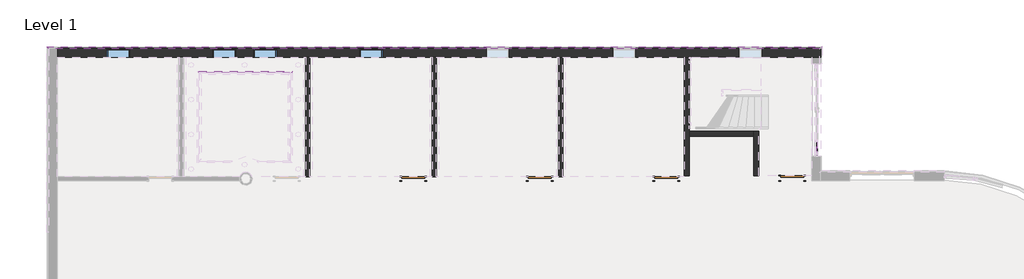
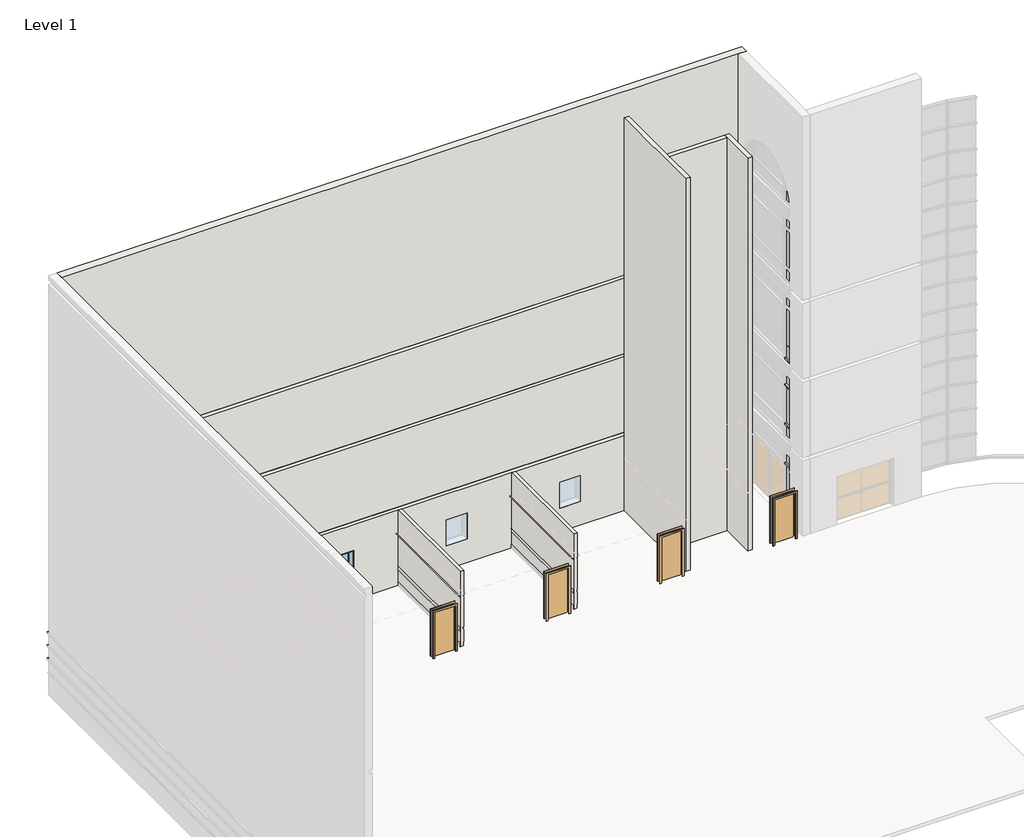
# One storey, part 10 of 20: 13 plates, 8 walls, 5 members, 4 doors, 4 windows, 3 proxies.
"""IFC4 building model written with IfcOpenShell, lengths in millimetres."""

from ifc_helpers import new_model, si_unit, frame, origin, origin_with_axes, place, context, project, spatial, polyline, outline, extrude, faceted_brep, transform, mapped, element, save
from components import door_f9494b7c, door_d6d25fb4, member_aaa03826, system_panel_glazed_0abf4587, system_panel_glazed_c8e71bd0, system_panel_glazed_bf223ca8, system_panel_glazed_db2ca77c, system_panel_glazed_a7a8c7fc, system_panel_glazed_db8a70c9, system_panel_glazed_0a7c89d8, window_15c49d37, window_0e2fc6ce

model = new_model("IFC4")

# Units and contexts
model_context = context("Model", 3, world=origin())
ifc_project = project(units=[si_unit("LENGTHUNIT", "METRE", prefix="MILLI")], contexts=[model_context])

# Site, building, storey
site = spatial("IfcSite", under=ifc_project)
building = spatial("IfcBuilding", under=site)
storey = spatial("IfcBuildingStorey", under=building, Name="Level 1", Elevation=0.0)

# Proxies
placement = place(None, origin())
element("IfcBuildingElementProxy", 1, Name="Reveals", at=placement, inside=storey, context=model_context, shape_type="SweptSolid", body=[
    extrude(outline(polyline([(10753.1735554, 9660.7898319), (10753.1735554, 9752.8648319), (13127.8089721, 9752.8648319), (13035.7339721, 9660.7898319), (10753.1735554, 9660.7898319)])), frame((0.0, 0.0, 1625.6), z_axis=(0.0, 0.0, 1.0), x_axis=(1.0, 0.0, 0.0)), (0.0, 0.0, 1.0), 67.7333333),
    extrude(outline(polyline([(5766.5714721, 9660.7898319), (5766.5714721, 9752.8648319), (9838.7735554, 9752.8648319), (9838.7735554, 9660.7898319), (5766.5714721, 9660.7898319)])), frame((0.0, 0.0, 1625.6), z_axis=(0.0, 0.0, 1.0), x_axis=(1.0, 0.0, 0.0)), (0.0, 0.0, 1.0), 67.7333333),
    extrude(outline(polyline([(774.4131388, 9660.7898319), (774.4131388, 9752.8648319), (4852.1714721, 9752.8648319), (4852.1714721, 9660.7898319), (774.4131388, 9660.7898319)])), frame((0.0, 0.0, 1625.6), z_axis=(0.0, 0.0, 1.0), x_axis=(1.0, 0.0, 0.0)), (0.0, 0.0, 1.0), 67.7333333),
    extrude(outline(polyline([(-4217.7451946, 9660.7898319), (-4217.7451946, 9752.8648319), (-139.9868612, 9752.8648319), (-139.9868612, 9660.7898319), (-4217.7451946, 9660.7898319)])), frame((0.0, 0.0, 1625.6), z_axis=(0.0, 0.0, 1.0), x_axis=(1.0, 0.0, 0.0)), (0.0, 0.0, 1.0), 67.7333333),
    extrude(outline(polyline([(-8403.8063057, 9660.7898319), (-8403.8063057, 9752.8648319), (-5132.1451946, 9752.8648319), (-5132.1451946, 9660.7898319), (-8403.8063057, 9660.7898319)])), frame((0.0, 0.0, 1625.6), z_axis=(0.0, 0.0, 1.0), x_axis=(1.0, 0.0, 0.0)), (0.0, 0.0, 1.0), 67.7333333),
    extrude(outline(polyline([(-10016.0007501, 9660.7898319), (-10016.0007501, 9752.8648319), (-9318.2063057, 9752.8648319), (-9318.2063057, 9660.7898319), (-10016.0007501, 9660.7898319)])), frame((0.0, 0.0, 1625.6), z_axis=(0.0, 0.0, 1.0), x_axis=(1.0, 0.0, 0.0)), (0.0, 0.0, 1.0), 67.7333333),
    extrude(outline(polyline([(-14196.5056112, 9660.7898319), (-14196.5056112, 9752.8648319), (-10930.4007501, 9752.8648319), (-10930.4007501, 9660.7898319), (-14196.5056112, 9660.7898319)])), frame((0.0, 0.0, 1625.6), z_axis=(0.0, 0.0, 1.0), x_axis=(1.0, 0.0, 0.0)), (0.0, 0.0, 1.0), 67.7333333),
    extrude(outline(polyline([(-17393.4660279, 9660.7898319), (-17485.5410279, 9752.8648319), (-15110.9056112, 9752.8648319), (-15110.9056112, 9660.7898319), (-17393.4660279, 9660.7898319)])), frame((0.0, 0.0, 1625.6), z_axis=(0.0, 0.0, 1.0), x_axis=(1.0, 0.0, 0.0)), (0.0, 0.0, 1.0), 67.7333333),
])
element("IfcBuildingElementProxy", 2, Name="Reveals", at=placement, inside=storey, context=model_context, shape_type="SweptSolid", body=[
    extrude(outline(polyline([(10753.1735554, 9660.7898319), (10753.1735554, 9752.8648319), (13127.8089721, 9752.8648319), (13035.7339721, 9660.7898319), (10753.1735554, 9660.7898319)])), frame((0.0, 0.0, 2235.2), z_axis=(0.0, 0.0, 1.0), x_axis=(1.0, 0.0, 0.0)), (0.0, 0.0, 1.0), 67.7333333),
    extrude(outline(polyline([(-14196.5056112, 9660.7898319), (-14196.5056112, 9752.8648319), (-10930.4007501, 9752.8648319), (-10930.4007501, 9660.7898319), (-14196.5056112, 9660.7898319)])), frame((0.0, 0.0, 2235.2), z_axis=(0.0, 0.0, 1.0), x_axis=(1.0, 0.0, 0.0)), (0.0, 0.0, 1.0), 67.7333333),
    extrude(outline(polyline([(-10016.0007501, 9660.7898319), (-10016.0007501, 9752.8648319), (-9318.2063057, 9752.8648319), (-9318.2063057, 9660.7898319), (-10016.0007501, 9660.7898319)])), frame((0.0, 0.0, 2235.2), z_axis=(0.0, 0.0, 1.0), x_axis=(1.0, 0.0, 0.0)), (0.0, 0.0, 1.0), 67.7333333),
    extrude(outline(polyline([(-8403.8063057, 9660.7898319), (-8403.8063057, 9752.8648319), (-5132.1451946, 9752.8648319), (-5132.1451946, 9660.7898319), (-8403.8063057, 9660.7898319)])), frame((0.0, 0.0, 2235.2), z_axis=(0.0, 0.0, 1.0), x_axis=(1.0, 0.0, 0.0)), (0.0, 0.0, 1.0), 67.7333333),
    extrude(outline(polyline([(-4217.7451946, 9660.7898319), (-4217.7451946, 9752.8648319), (-139.9868612, 9752.8648319), (-139.9868612, 9660.7898319), (-4217.7451946, 9660.7898319)])), frame((0.0, 0.0, 2235.2), z_axis=(0.0, 0.0, 1.0), x_axis=(1.0, 0.0, 0.0)), (0.0, 0.0, 1.0), 67.7333333),
    extrude(outline(polyline([(774.4131388, 9660.7898319), (774.4131388, 9752.8648319), (4852.1714721, 9752.8648319), (4852.1714721, 9660.7898319), (774.4131388, 9660.7898319)])), frame((0.0, 0.0, 2235.2), z_axis=(0.0, 0.0, 1.0), x_axis=(1.0, 0.0, 0.0)), (0.0, 0.0, 1.0), 67.7333333),
    extrude(outline(polyline([(5766.5714721, 9660.7898319), (5766.5714721, 9752.8648319), (9838.7735554, 9752.8648319), (9838.7735554, 9660.7898319), (5766.5714721, 9660.7898319)])), frame((0.0, 0.0, 2235.2), z_axis=(0.0, 0.0, 1.0), x_axis=(1.0, 0.0, 0.0)), (0.0, 0.0, 1.0), 67.7333333),
    extrude(outline(polyline([(-17393.4660279, 9660.7898319), (-17485.5410279, 9752.8648319), (-15110.9056112, 9752.8648319), (-15110.9056112, 9660.7898319), (-17393.4660279, 9660.7898319)])), frame((0.0, 0.0, 2235.2), z_axis=(0.0, 0.0, 1.0), x_axis=(1.0, 0.0, 0.0)), (0.0, 0.0, 1.0), 67.7333333),
])
element("IfcBuildingElementProxy", 3, Name="Reveals", at=placement, inside=storey, context=model_context, shape_type="SweptSolid", body=[
    extrude(outline(polyline([(-17393.4660279, 9660.7898319), (-17485.5410279, 9752.8648319), (13127.8089721, 9752.8648319), (13035.7339721, 9660.7898319), (-17393.4660279, 9660.7898319)])), frame((0.0, 0.0, 2844.8), z_axis=(0.0, 0.0, 1.0), x_axis=(1.0, 0.0, 0.0)), (0.0, 0.0, 1.0), 67.7333333),
])

# Doors
door_shape = door_f9494b7c(model_context)
element("IfcDoor", 4, ObjectType="Single-Flush : 36\" x 84\"", at=placement, inside=storey, context=model_context, shape_type="MappedRepresentation", body=[
    mapped(door_shape, transform((-3018.6535279, 4534.7523319, 0.0), x_axis=(1.0, 0.0, 0.0), y_axis=(0.0, 1.0, 0.0), z_axis=(0.0, 0.0, 1.0))),
])
element("IfcDoor", 5, ObjectType="Single-Flush : 36\" x 84\"", at=placement, inside=storey, context=model_context, shape_type="MappedRepresentation", body=[
    mapped(door_shape, transform((1973.5048054, 4534.7523319, 0.0), x_axis=(1.0, 0.0, 0.0), y_axis=(0.0, 1.0, 0.0), z_axis=(0.0, 0.0, 1.0))),
])
element("IfcDoor", 6, ObjectType="Single-Flush : 36\" x 84\"", at=placement, inside=storey, context=model_context, shape_type="MappedRepresentation", body=[
    mapped(door_shape, transform((6965.6631388, 4534.7523319, 0.0), x_axis=(1.0, 0.0, 0.0), y_axis=(0.0, 1.0, 0.0), z_axis=(0.0, 0.0, 1.0))),
])
door_2_shape = door_d6d25fb4(model_context)
element("IfcDoor", 7, ObjectType="Single-Flush : 36\" x 84\"", at=placement, inside=storey, context=model_context, shape_type="MappedRepresentation", body=[
    mapped(door_2_shape, transform((11946.7089721, 4553.8023319, 0.0), x_axis=(1.0, 0.0, 0.0), y_axis=(0.0, 1.0, 0.0), z_axis=(0.0, 0.0, 1.0))),
])

# Members
member_shape = member_aaa03826(model_context)
element("IfcMember", 8, ObjectType="Rectangular Mullion : 2.5\" x 5\" rectangular", at=placement, inside=storey, context=model_context, shape_type="MappedRepresentation", body=[
    mapped(member_shape, transform((12884.9214721, 5996.8398319, 2438.4), x_axis=(0.0, 0.0, 1.0), y_axis=(1.0, 0.0, 0.0), z_axis=(0.0, 1.0, 0.0))),
])
element("IfcMember", 9, ObjectType="Rectangular Mullion : 2.5\" x 5\" rectangular", at=placement, inside=storey, context=model_context, shape_type="MappedRepresentation", body=[
    mapped(member_shape, transform((12884.9214721, 5996.8398319, 4267.2), x_axis=(0.0, 0.0, 1.0), y_axis=(1.0, 0.0, 0.0), z_axis=(0.0, 1.0, 0.0))),
])
element("IfcMember", 10, ObjectType="Rectangular Mullion : 2.5\" x 5\" rectangular", at=placement, inside=storey, context=model_context, shape_type="MappedRepresentation", body=[
    mapped(member_shape, transform((12884.9214721, 5996.8398319, 6096.0), x_axis=(0.0, 0.0, 1.0), y_axis=(1.0, 0.0, 0.0), z_axis=(0.0, 1.0, 0.0))),
])
element("IfcMember", 11, ObjectType="Rectangular Mullion : 2.5\" x 5\" rectangular", at=placement, inside=storey, context=model_context, shape_type="MappedRepresentation", body=[
    mapped(member_shape, transform((12884.9214721, 5996.8398319, 7315.2), x_axis=(0.0, 0.0, 1.0), y_axis=(1.0, 0.0, 0.0), z_axis=(0.0, 1.0, 0.0))),
])
element("IfcMember", 12, ObjectType="Rectangular Mullion : 2.5\" x 5\" rectangular", at=placement, inside=storey, context=model_context, shape_type="MappedRepresentation", body=[
    mapped(member_shape, transform((12884.9214721, 5996.8398319, 6705.6), x_axis=(0.0, 0.0, 1.0), y_axis=(1.0, 0.0, 0.0), z_axis=(0.0, 1.0, 0.0))),
])

# Plates
system_panel_glazed_shape = system_panel_glazed_0abf4587(model_context)
element("IfcPlate", 13, ObjectType="System Panel : Glazed", at=placement, inside=storey, context=model_context, shape_type="MappedRepresentation", body=[
    mapped(system_panel_glazed_shape, transform((12884.9214721, 5739.6648319, 63.5), x_axis=(0.0, 1.0, 0.0), y_axis=(-1.0, 0.0, 0.0), z_axis=(0.0, 0.0, 1.0))),
])
system_panel_glazed_2_shape = system_panel_glazed_c8e71bd0(model_context)
element("IfcPlate", 14, ObjectType="System Panel : Glazed", at=placement, inside=storey, context=model_context, shape_type="MappedRepresentation", body=[
    mapped(system_panel_glazed_2_shape, transform((12884.9214721, 5739.6648319, 3689.35), x_axis=(0.0, 1.0, 0.0), y_axis=(-1.0, 0.0, 0.0), z_axis=(0.0, 0.0, 1.0))),
])
element("IfcPlate", 15, ObjectType="System Panel : Glazed", at=placement, inside=storey, context=model_context, shape_type="MappedRepresentation", body=[
    mapped(system_panel_glazed_2_shape, transform((12884.9214721, 5739.6648319, 11004.55), x_axis=(0.0, 1.0, 0.0), y_axis=(-1.0, 0.0, 0.0), z_axis=(0.0, 0.0, 1.0))),
])
element("IfcPlate", 16, ObjectType="System Panel : Glazed", at=placement, inside=storey, context=model_context, shape_type="MappedRepresentation", body=[
    mapped(system_panel_glazed_2_shape, transform((12884.9214721, 5739.6648319, 2470.15), x_axis=(0.0, 1.0, 0.0), y_axis=(-1.0, 0.0, 0.0), z_axis=(0.0, 0.0, 1.0))),
])
element("IfcPlate", 17, ObjectType="System Panel : Glazed", at=placement, inside=storey, context=model_context, shape_type="MappedRepresentation", body=[
    mapped(system_panel_glazed_2_shape, transform((12884.9214721, 5739.6648319, 6127.75), x_axis=(0.0, 1.0, 0.0), y_axis=(-1.0, 0.0, 0.0), z_axis=(0.0, 0.0, 1.0))),
])
element("IfcPlate", 18, ObjectType="System Panel : Glazed", at=placement, inside=storey, context=model_context, shape_type="MappedRepresentation", body=[
    mapped(system_panel_glazed_2_shape, transform((12884.9214721, 5739.6648319, 9785.35), x_axis=(0.0, 1.0, 0.0), y_axis=(-1.0, 0.0, 0.0), z_axis=(0.0, 0.0, 1.0))),
])
element("IfcPlate", 19, ObjectType="System Panel : Glazed", at=placement, inside=storey, context=model_context, shape_type="MappedRepresentation", body=[
    mapped(system_panel_glazed_2_shape, transform((12884.9214721, 5739.6648319, 13442.95), x_axis=(0.0, 1.0, 0.0), y_axis=(-1.0, 0.0, 0.0), z_axis=(0.0, 0.0, 1.0))),
])
system_panel_glazed_3_shape = system_panel_glazed_bf223ca8(model_context)
element("IfcPlate", 20, ObjectType="System Panel : Glazed", at=placement, inside=storey, context=model_context, shape_type="MappedRepresentation", body=[
    mapped(system_panel_glazed_3_shape, transform((12884.9214721, 5739.6648319, 7346.95), x_axis=(0.0, 1.0, 0.0), y_axis=(-1.0, 0.0, 0.0), z_axis=(0.0, 0.0, 1.0))),
])
system_panel_glazed_4_shape = system_panel_glazed_db2ca77c(model_context)
element("IfcPlate", 21, ObjectType="System Panel : Glazed", at=placement, inside=storey, context=model_context, shape_type="MappedRepresentation", body=[
    mapped(system_panel_glazed_4_shape, transform((12884.9214721, 5739.8076043, 14662.15), x_axis=(0.0, 1.0, 0.0), y_axis=(-1.0, 0.0, 0.0), z_axis=(0.0, 0.0, 1.0))),
])
system_panel_glazed_5_shape = system_panel_glazed_a7a8c7fc(model_context)
element("IfcPlate", 22, ObjectType="System Panel : Glazed", at=placement, inside=storey, context=model_context, shape_type="MappedRepresentation", body=[
    mapped(system_panel_glazed_5_shape, transform((12884.9214721, 5739.6648319, 4298.95), x_axis=(0.0, 1.0, 0.0), y_axis=(-1.0, 0.0, 0.0), z_axis=(0.0, 0.0, 1.0))),
])
element("IfcPlate", 23, ObjectType="System Panel : Glazed", at=placement, inside=storey, context=model_context, shape_type="MappedRepresentation", body=[
    mapped(system_panel_glazed_5_shape, transform((12884.9214721, 5739.6648319, 11614.15), x_axis=(0.0, 1.0, 0.0), y_axis=(-1.0, 0.0, 0.0), z_axis=(0.0, 0.0, 1.0))),
])
system_panel_glazed_6_shape = system_panel_glazed_db8a70c9(model_context)
element("IfcPlate", 24, ObjectType="System Panel : Glazed", at=placement, inside=storey, context=model_context, shape_type="MappedRepresentation", body=[
    mapped(system_panel_glazed_6_shape, transform((12884.9214721, 5739.6648319, 7924.8), x_axis=(0.0, 1.0, 0.0), y_axis=(-1.0, 0.0, 0.0), z_axis=(0.0, 0.0, 1.0))),
])
system_panel_glazed_7_shape = system_panel_glazed_0a7c89d8(model_context)
element("IfcPlate", 25, ObjectType="System Panel : Glazed", at=placement, inside=storey, context=model_context, shape_type="MappedRepresentation", body=[
    mapped(system_panel_glazed_7_shape, transform((12884.9214721, 5799.9775733, 15271.75), x_axis=(0.0, 1.0, 0.0), y_axis=(-1.0, 0.0, 0.0), z_axis=(0.0, 0.0, 1.0))),
])

# Walls
element("IfcWall", 26, ObjectType="Exterior - Brick and CMU on MTL. Stud", at=placement, inside=storey, context=model_context, shape_type="Brep", body=[
    faceted_brep([(-17066.4410279, 9333.7648319, 0.0), (-12240.9701946, 9333.7648319, 0.0), (-12085.3951946, 9333.7648319, 0.0), (-7248.8118612, 9333.7648319, 0.0), (-7093.2368612, 9333.7648319, 0.0), (-2256.6535279, 9333.7648319, 0.0), (-2101.0785279, 9333.7648319, 0.0), (2735.5048054, 9333.7648319, 0.0), (2891.0798054, 9333.7648319, 0.0), (7689.5631388, 9333.7648319, 0.0), (7883.2381388, 9333.7648319, 0.0), (12708.7089721, 9333.7648319, 0.0), (13061.1339721, 9333.7648319, 0.0), (13061.1339721, 9333.7648319, 1016.0), (12969.0589721, 9333.7648319, 1016.0), (12969.0589721, 9333.7648319, 1085.85), (13061.1339721, 9333.7648319, 1085.85), (13061.1339721, 9333.7648319, 1625.6), (13035.7339721, 9333.7648319, 1625.6), (13035.7339721, 9333.7648319, 1693.3333333), (13061.1339721, 9333.7648319, 1693.3333333), (13061.1339721, 9333.7648319, 2235.2), (13035.7339721, 9333.7648319, 2235.2), (13035.7339721, 9333.7648319, 2302.9333333), (13061.1339721, 9333.7648319, 2302.9333333), (13061.1339721, 9333.7648319, 2844.8), (13035.7339721, 9333.7648319, 2844.8), (13035.7339721, 9333.7648319, 2912.5333333), (13061.1339721, 9333.7648319, 2912.5333333), (13061.1339721, 9333.7648319, 19100.8), (12969.0589721, 9333.7648319, 19100.8), (12969.0589721, 9333.7648319, 19304.0), (13061.1339721, 9333.7648319, 19304.0), (13061.1339721, 9333.7648319, 19507.2), (12708.7089721, 9333.7648319, 19507.2), (-17066.4410279, 9333.7648319, 19507.2), (-17066.4410279, 9333.7648319, 10972.8), (7883.7381388, 9333.7648319, 10972.8), (10718.2353862, 9333.7648319, 10972.8), (12708.7089721, 9333.7648319, 10972.8), (12873.8089721, 9333.7648319, 10972.8), (12873.8089721, 9333.7648319, 10820.4), (12708.7089721, 9333.7648319, 10820.4), (10718.2353862, 9333.7648319, 10820.4), (7883.7381388, 9333.7648319, 10820.4), (-17066.4410279, 9333.7648319, 10820.4), (-17066.4410279, 9333.7648319, 7315.2), (7883.7381388, 9333.7648319, 7315.2), (10718.2353862, 9333.7648319, 7315.2), (12708.7089721, 9333.7648319, 7315.2), (12873.8089721, 9333.7648319, 7315.2), (12873.8089721, 9333.7648319, 7162.8), (12708.7089721, 9333.7648319, 7162.8), (10718.2353862, 9333.7648319, 7162.8), (7883.7381388, 9333.7648319, 7162.8), (-13253.2660279, 9333.7648319, 7162.8), (-13408.8410279, 9333.7648319, 7162.8), (-17066.4410279, 9333.7648319, 7162.8), (-17066.4410279, 9333.7648319, 3657.6), (-13408.8410279, 9333.7648319, 3657.6), (-13253.2660279, 9333.7648319, 3657.6), (7883.7381388, 9333.7648319, 3657.6), (10718.2353862, 9333.7648319, 3657.6), (12708.7089721, 9333.7648319, 3657.6), (12873.8089721, 9333.7648319, 3657.6), (12873.8089721, 9333.7648319, 3505.2), (12708.7089721, 9333.7648319, 3505.2), (10718.2353862, 9333.7648319, 3505.2), (7883.7381388, 9333.7648319, 3505.2), (2891.0798054, 9333.7648319, 3505.2), (2735.5048054, 9333.7648319, 3505.2), (-2101.0785279, 9333.7648319, 3505.2), (-2256.6535279, 9333.7648319, 3505.2), (-7093.2368612, 9333.7648319, 3505.2), (-7248.8118612, 9333.7648319, 3505.2), (-12085.3951946, 9333.7648319, 3505.2), (-12240.9701946, 9333.7648319, 3505.2), (-17066.4410279, 9333.7648319, 3505.2), (-14196.5056112, 9333.7648319, 2311.4), (-14196.5056112, 9333.7648319, 1092.2), (-15110.9056112, 9333.7648319, 1092.2), (-15110.9056112, 9333.7648319, 2311.4), (-10016.0007501, 9333.7648319, 2311.4), (-10016.0007501, 9333.7648319, 1092.2), (-10930.4007501, 9333.7648319, 1092.2), (-10930.4007501, 9333.7648319, 2311.4), (-4217.7451946, 9333.7648319, 2311.4), (-4217.7451946, 9333.7648319, 1092.2), (-5132.1451946, 9333.7648319, 1092.2), (-5132.1451946, 9333.7648319, 2311.4), (774.4131388, 9333.7648319, 2311.4), (774.4131388, 9333.7648319, 1092.2), (-139.9868612, 9333.7648319, 1092.2), (-139.9868612, 9333.7648319, 2311.4), (5766.5714721, 9333.7648319, 2311.4), (5766.5714721, 9333.7648319, 1092.2), (4852.1714721, 9333.7648319, 1092.2), (4852.1714721, 9333.7648319, 2311.4), (10753.1735554, 9333.7648319, 2311.4), (10753.1735554, 9333.7648319, 1092.2), (9838.7735554, 9333.7648319, 1092.2), (9838.7735554, 9333.7648319, 2311.4), (-9318.2063057, 9333.7648319, 1092.2), (-9318.2063057, 9333.7648319, 2311.4), (-8403.8063057, 9333.7648319, 2311.4), (-8403.8063057, 9333.7648319, 1092.2), (-17066.4410279, 9686.1898319, 19507.2), (13061.1339721, 9686.1898319, 19507.2), (13061.1339721, 9686.1898319, 19304.0), (-17066.4410279, 9686.1898319, 19304.0), (13061.1339721, 9686.1898319, 0.0), (-17066.4410279, 9686.1898319, 0.0), (-17066.4410279, 9686.1898319, 1016.0), (13061.1339721, 9686.1898319, 1016.0), (13061.1339721, 9686.1898319, 1693.3333333), (10753.1735554, 9686.1898319, 1693.3333333), (10753.1735554, 9686.1898319, 2235.2), (13061.1339721, 9686.1898319, 2235.2), (10753.1735554, 9686.1898319, 1625.6), (13061.1339721, 9686.1898319, 1625.6), (13061.1339721, 9686.1898319, 1085.85), (-17066.4410279, 9686.1898319, 1085.85), (-17066.4410279, 9686.1898319, 1625.6), (-15110.9056112, 9686.1898319, 1625.6), (-15110.9056112, 9686.1898319, 1092.2), (-14196.5056112, 9686.1898319, 1092.2), (-14196.5056112, 9686.1898319, 1625.6), (-10930.4007501, 9686.1898319, 1625.6), (-10930.4007501, 9686.1898319, 1092.2), (-10016.0007501, 9686.1898319, 1092.2), (-10016.0007501, 9686.1898319, 1625.6), (-9318.2063057, 9686.1898319, 1625.6), (-9318.2063057, 9686.1898319, 1092.2), (-8403.8063057, 9686.1898319, 1092.2), (-8403.8063057, 9686.1898319, 1625.6), (-5132.1451946, 9686.1898319, 1625.6), (-5132.1451946, 9686.1898319, 1092.2), (-4217.7451946, 9686.1898319, 1092.2), (-4217.7451946, 9686.1898319, 1625.6), (-139.9868612, 9686.1898319, 1625.6), (-139.9868612, 9686.1898319, 1092.2), (774.4131388, 9686.1898319, 1092.2), (774.4131388, 9686.1898319, 1625.6), (4852.1714721, 9686.1898319, 1625.6), (4852.1714721, 9686.1898319, 1092.2), (5766.5714721, 9686.1898319, 1092.2), (5766.5714721, 9686.1898319, 1625.6), (9838.7735554, 9686.1898319, 1625.6), (9838.7735554, 9686.1898319, 1092.2), (10753.1735554, 9686.1898319, 1092.2), (13061.1339721, 9686.1898319, 2302.9333333), (10753.1735554, 9686.1898319, 2302.9333333), (10753.1735554, 9686.1898319, 2311.4), (9838.7735554, 9686.1898319, 2311.4), (9838.7735554, 9686.1898319, 2302.9333333), (5766.5714721, 9686.1898319, 2302.9333333), (5766.5714721, 9686.1898319, 2311.4), (4852.1714721, 9686.1898319, 2311.4), (4852.1714721, 9686.1898319, 2302.9333333), (774.4131388, 9686.1898319, 2302.9333333), (774.4131388, 9686.1898319, 2311.4), (-139.9868612, 9686.1898319, 2311.4), (-139.9868612, 9686.1898319, 2302.9333333), (-4217.7451946, 9686.1898319, 2302.9333333), (-4217.7451946, 9686.1898319, 2311.4), (-5132.1451946, 9686.1898319, 2311.4), (-5132.1451946, 9686.1898319, 2302.9333333), (-8403.8063057, 9686.1898319, 2302.9333333), (-8403.8063057, 9686.1898319, 2311.4), (-9318.2063057, 9686.1898319, 2311.4), (-9318.2063057, 9686.1898319, 2302.9333333), (-10016.0007501, 9686.1898319, 2302.9333333), (-10016.0007501, 9686.1898319, 2311.4), (-10930.4007501, 9686.1898319, 2311.4), (-10930.4007501, 9686.1898319, 2302.9333333), (-14196.5056112, 9686.1898319, 2302.9333333), (-14196.5056112, 9686.1898319, 2311.4), (-15110.9056112, 9686.1898319, 2311.4), (-15110.9056112, 9686.1898319, 2302.9333333), (-17066.4410279, 9686.1898319, 2302.9333333), (-17066.4410279, 9686.1898319, 2844.8), (13061.1339721, 9686.1898319, 2844.8), (-15110.9056112, 9686.1898319, 1693.3333333), (-17066.4410279, 9686.1898319, 1693.3333333), (-17066.4410279, 9686.1898319, 2235.2), (-15110.9056112, 9686.1898319, 2235.2), (13061.1339721, 9686.1898319, 2912.5333333), (-17066.4410279, 9686.1898319, 2912.5333333), (-17066.4410279, 9686.1898319, 19100.8), (13061.1339721, 9686.1898319, 19100.8), (9838.7735554, 9686.1898319, 1693.3333333), (5766.5714721, 9686.1898319, 1693.3333333), (5766.5714721, 9686.1898319, 2235.2), (9838.7735554, 9686.1898319, 2235.2), (4852.1714721, 9686.1898319, 1693.3333333), (774.4131388, 9686.1898319, 1693.3333333), (774.4131388, 9686.1898319, 2235.2), (4852.1714721, 9686.1898319, 2235.2), (-139.9868612, 9686.1898319, 1693.3333333), (-4217.7451946, 9686.1898319, 1693.3333333), (-4217.7451946, 9686.1898319, 2235.2), (-139.9868612, 9686.1898319, 2235.2), (-5132.1451946, 9686.1898319, 1693.3333333), (-8403.8063057, 9686.1898319, 1693.3333333), (-8403.8063057, 9686.1898319, 2235.2), (-5132.1451946, 9686.1898319, 2235.2), (-9318.2063057, 9686.1898319, 1693.3333333), (-10016.0007501, 9686.1898319, 1693.3333333), (-10016.0007501, 9686.1898319, 2235.2), (-9318.2063057, 9686.1898319, 2235.2), (-10930.4007501, 9686.1898319, 2235.2), (-10930.4007501, 9686.1898319, 1693.3333333), (-14196.5056112, 9686.1898319, 1693.3333333), (-14196.5056112, 9686.1898319, 2235.2), (-17066.4410279, 9594.1148319, 0.0), (13061.1339721, 9594.1148319, 0.0), (13035.7339721, 9660.7898319, 1693.3333333), (10753.1735554, 9660.7898319, 1693.3333333), (10753.1735554, 9660.7898319, 1625.6), (13035.7339721, 9660.7898319, 1625.6), (13035.7339721, 9660.7898319, 2302.9333333), (10753.1735554, 9660.7898319, 2302.9333333), (10753.1735554, 9660.7898319, 2235.2), (13035.7339721, 9660.7898319, 2235.2), (13035.7339721, 9660.7898319, 2844.8), (-17066.4410279, 9660.7898319, 2844.8), (-17066.4410279, 9660.7898319, 2912.5333333), (13035.7339721, 9660.7898319, 2912.5333333), (12969.0589721, 9594.1148319, 1016.0), (-17066.4410279, 9594.1148319, 1016.0), (-17066.4410279, 9594.1148319, 1085.85), (12969.0589721, 9594.1148319, 1085.85), (12969.0589721, 9594.1148319, 19100.8), (-17066.4410279, 9594.1148319, 19100.8), (-17066.4410279, 9594.1148319, 19304.0), (12969.0589721, 9594.1148319, 19304.0), (-17066.4410279, 9660.7898319, 2302.9333333), (-17066.4410279, 9660.7898319, 2235.2), (-17066.4410279, 9660.7898319, 1693.3333333), (-17066.4410279, 9660.7898319, 1625.6), (-17066.4410279, 9498.8648319, 3505.2), (-17066.4410279, 9498.8648319, 3657.6), (-17066.4410279, 9498.8648319, 7162.8), (-17066.4410279, 9498.8648319, 7315.2), (-17066.4410279, 9498.8648319, 10820.4), (-17066.4410279, 9498.8648319, 10972.8), (-15110.9056112, 9660.7898319, 1693.3333333), (-15110.9056112, 9660.7898319, 1625.6), (-15110.9056112, 9660.7898319, 2302.9333333), (-15110.9056112, 9660.7898319, 2235.2), (-14196.5056112, 9660.7898319, 2302.9333333), (-14196.5056112, 9660.7898319, 2235.2), (-14196.5056112, 9660.7898319, 1693.3333333), (-14196.5056112, 9660.7898319, 1625.6), (5766.5714721, 9660.7898319, 1693.3333333), (9838.7735554, 9660.7898319, 1693.3333333), (9838.7735554, 9660.7898319, 1625.6), (5766.5714721, 9660.7898319, 1625.6), (-10016.0007501, 9660.7898319, 2302.9333333), (-10016.0007501, 9660.7898319, 2235.2), (-10016.0007501, 9660.7898319, 1693.3333333), (-10016.0007501, 9660.7898319, 1625.6), (-10930.4007501, 9660.7898319, 1625.6), (-10930.4007501, 9660.7898319, 1693.3333333), (-10930.4007501, 9660.7898319, 2235.2), (-10930.4007501, 9660.7898319, 2302.9333333), (774.4131388, 9660.7898319, 1693.3333333), (4852.1714721, 9660.7898319, 1693.3333333), (4852.1714721, 9660.7898319, 1625.6), (774.4131388, 9660.7898319, 1625.6), (-4217.7451946, 9660.7898319, 2302.9333333), (-4217.7451946, 9660.7898319, 2235.2), (-4217.7451946, 9660.7898319, 1693.3333333), (-4217.7451946, 9660.7898319, 1625.6), (-5132.1451946, 9660.7898319, 1625.6), (-5132.1451946, 9660.7898319, 1693.3333333), (-5132.1451946, 9660.7898319, 2235.2), (-5132.1451946, 9660.7898319, 2302.9333333), (-139.9868612, 9660.7898319, 1693.3333333), (-139.9868612, 9660.7898319, 1625.6), (774.4131388, 9660.7898319, 2302.9333333), (774.4131388, 9660.7898319, 2235.2), (-139.9868612, 9660.7898319, 2235.2), (-139.9868612, 9660.7898319, 2302.9333333), (-8403.8063057, 9660.7898319, 1693.3333333), (-8403.8063057, 9660.7898319, 1625.6), (5766.5714721, 9660.7898319, 2302.9333333), (5766.5714721, 9660.7898319, 2235.2), (4852.1714721, 9660.7898319, 2235.2), (4852.1714721, 9660.7898319, 2302.9333333), (-9318.2063057, 9660.7898319, 1693.3333333), (-9318.2063057, 9660.7898319, 1625.6), (9838.7735554, 9660.7898319, 2235.2), (9838.7735554, 9660.7898319, 2302.9333333), (-9318.2063057, 9660.7898319, 2302.9333333), (-9318.2063057, 9660.7898319, 2235.2), (-8403.8063057, 9660.7898319, 2302.9333333), (-8403.8063057, 9660.7898319, 2235.2), (12873.8089721, 9498.8648319, 3505.2), (12873.8089721, 9498.8648319, 3657.6), (12873.8089721, 9498.8648319, 7162.8), (12873.8089721, 9498.8648319, 7315.2), (12873.8089721, 9498.8648319, 10820.4), (12873.8089721, 9498.8648319, 10972.8)], [[[0, 1, 2, 3, 4, 5, 6, 7, 8, 9, 10, 11, 12, 13, 14, 15, 16, 17, 18, 19, 20, 21, 22, 23, 24, 25, 26, 27, 28, 29, 30, 31, 32, 33, 34, 35, 36, 37, 38, 39, 40, 41, 42, 43, 44, 45, 46, 47, 48, 49, 50, 51, 52, 53, 54, 55, 56, 57, 58, 59, 60, 61, 62, 63, 64, 65, 66, 67, 68, 69, 70, 71, 72, 73, 74, 75, 76, 77], [78, 79, 80, 81], [82, 83, 84, 85], [86, 87, 88, 89], [90, 91, 92, 93], [94, 95, 96, 97], [98, 99, 100, 101], [102, 103, 104, 105]], [[106, 107, 108, 109]], [[110, 111, 112, 113]], [[114, 115, 116, 117]], [[118, 119, 120, 121, 122, 123, 124, 125, 126, 127, 128, 129, 130, 131, 132, 133, 134, 135, 136, 137, 138, 139, 140, 141, 142, 143, 144, 145, 146, 147, 148, 149]], [[150, 151, 152, 153, 154, 155, 156, 157, 158, 159, 160, 161, 162, 163, 164, 165, 166, 167, 168, 169, 170, 171, 172, 173, 174, 175, 176, 177, 178, 179, 180, 181]], [[182, 183, 184, 185]], [[186, 187, 188, 189]], [[190, 191, 192, 193]], [[194, 195, 196, 197]], [[198, 199, 200, 201]], [[202, 203, 204, 205]], [[206, 207, 208, 209]], [[210, 211, 212, 213]], [[35, 34, 33, 107, 106]], [[12, 11, 10, 9, 8, 7, 6, 5, 4, 3, 2, 1, 0, 214, 215]], [[216, 217, 115, 114, 20, 19]], [[218, 219, 18, 17, 119, 118]], [[217, 216, 219, 218]], [[220, 221, 151, 150, 24, 23]], [[222, 223, 22, 21, 117, 116]], [[221, 220, 223, 222]], [[224, 225, 226, 227]], [[228, 229, 230, 231]], [[232, 233, 234, 235]], [[35, 106, 109, 234, 233, 188, 187, 226, 225, 180, 179, 236, 237, 184, 183, 238, 239, 122, 121, 230, 229, 112, 111, 214, 0, 77, 240, 241, 58, 57, 242, 243, 46, 45, 244, 245, 36]], [[111, 110, 215, 214]], [[183, 182, 246, 238]], [[123, 122, 239, 247]], [[179, 178, 248, 236]], [[185, 184, 237, 249]], [[227, 226, 187, 186, 28, 27]], [[225, 224, 26, 25, 181, 180]], [[231, 230, 121, 120, 16, 15]], [[229, 228, 14, 13, 113, 112]], [[233, 232, 30, 29, 189, 188]], [[235, 234, 109, 108, 32, 31]], [[107, 33, 32, 108]], [[12, 215, 110, 113, 13]], [[28, 186, 189, 29]], [[21, 20, 114, 117]], [[17, 16, 120, 119]], [[25, 24, 150, 181]], [[224, 227, 27, 26]], [[228, 231, 15, 14]], [[232, 235, 31, 30]], [[79, 78, 176, 175, 250, 251, 213, 212, 252, 253, 126, 125]], [[80, 79, 125, 124]], [[81, 80, 124, 123, 247, 246, 182, 185, 249, 248, 178, 177]], [[78, 81, 177, 176]], [[254, 255, 256, 257]], [[83, 82, 172, 171, 258, 259, 208, 207, 260, 261, 130, 129]], [[84, 83, 129, 128]], [[85, 84, 128, 127, 262, 263, 211, 210, 264, 265, 174, 173]], [[82, 85, 173, 172]], [[266, 267, 268, 269]], [[255, 254, 191, 190]], [[257, 256, 147, 146]], [[87, 86, 164, 163, 270, 271, 200, 199, 272, 273, 138, 137]], [[88, 87, 137, 136]], [[89, 88, 136, 135, 274, 275, 202, 205, 276, 277, 166, 165]], [[86, 89, 165, 164]], [[272, 278, 279, 273]], [[267, 266, 195, 194]], [[269, 268, 143, 142]], [[91, 90, 160, 159, 280, 281, 196, 195, 266, 269, 142, 141]], [[92, 91, 141, 140]], [[93, 92, 140, 139, 279, 278, 198, 201, 282, 283, 162, 161]], [[90, 93, 161, 160]], [[284, 275, 274, 285]], [[278, 272, 199, 198]], [[273, 279, 139, 138]], [[95, 94, 156, 155, 286, 287, 192, 191, 254, 257, 146, 145]], [[96, 95, 145, 144]], [[97, 96, 144, 143, 268, 267, 194, 197, 288, 289, 158, 157]], [[94, 97, 157, 156]], [[260, 290, 291, 261]], [[275, 284, 203, 202]], [[285, 274, 135, 134]], [[99, 98, 152, 151, 221, 222, 116, 115, 217, 218, 118, 149]], [[100, 99, 149, 148]], [[101, 100, 148, 147, 256, 255, 190, 193, 292, 293, 154, 153]], [[98, 101, 153, 152]], [[252, 263, 262, 253]], [[290, 260, 207, 206]], [[261, 291, 131, 130]], [[250, 265, 264, 251]], [[294, 258, 171, 170]], [[259, 295, 209, 208]], [[258, 294, 295, 259]], [[277, 296, 167, 166]], [[297, 276, 205, 204]], [[296, 277, 276, 297]], [[283, 270, 163, 162]], [[271, 282, 201, 200]], [[270, 283, 282, 271]], [[289, 280, 159, 158]], [[281, 288, 197, 196]], [[280, 289, 288, 281]], [[293, 286, 155, 154]], [[287, 292, 193, 192]], [[286, 293, 292, 287]], [[65, 298, 240, 77, 76, 75, 74, 73, 72, 71, 70, 69, 68, 67, 66]], [[241, 299, 64, 63, 62, 61, 60, 59, 58]], [[298, 299, 241, 240]], [[299, 298, 65, 64]], [[51, 300, 242, 57, 56, 55, 54, 53, 52]], [[243, 301, 50, 49, 48, 47, 46]], [[300, 301, 243, 242]], [[301, 300, 51, 50]], [[41, 302, 244, 45, 44, 43, 42]], [[303, 40, 39, 38, 37, 36, 245]], [[302, 303, 245, 244]], [[303, 302, 41, 40]], [[103, 102, 132, 131, 291, 290, 206, 209, 295, 294, 170, 169]], [[133, 132, 102, 105]], [[105, 104, 168, 167, 296, 297, 204, 203, 284, 285, 134, 133]], [[169, 168, 104, 103]], [[238, 246, 247, 239]], [[263, 252, 212, 211]], [[253, 262, 127, 126]], [[219, 216, 19, 18]], [[236, 248, 249, 237]], [[265, 250, 175, 174]], [[251, 264, 210, 213]], [[223, 220, 23, 22]]]),
])
element("IfcWall", 27, ObjectType="Generic - 8\" Masonry", at=placement, inside=storey, context=model_context, shape_type="Brep", body=[
    faceted_brep([(7883.2381388, 4650.6398319, 0.0), (7883.2381388, 6216.5398319, 0.0), (7883.2381388, 6410.2148319, 0.0), (7883.2381388, 9333.7648319, 0.0), (7883.2381388, 9333.7648319, 18288.0), (7883.2381388, 6410.2148319, 18288.0), (7883.2381388, 6216.5398319, 18288.0), (7883.2381388, 4650.6398319, 18288.0), (7689.5631388, 4650.6398319, 0.0), (7689.5631388, 4650.6398319, 18288.0), (7689.5631388, 9333.7648319, 18288.0), (7689.5631388, 9333.7648319, 0.0)], [[[0, 1, 2, 3, 4, 5, 6, 7]], [[8, 9, 10, 11]], [[3, 2, 1, 0, 8, 11]], [[7, 6, 5, 4, 10, 9]], [[4, 3, 11, 10]], [[0, 7, 9, 8]]]),
])
element("IfcWall", 28, ObjectType="Generic - 8\" Masonry", at=placement, inside=storey, context=model_context, shape_type="Brep", body=[
    faceted_brep([(10616.9131388, 4650.6398319, 0.0), (10616.9131388, 6410.2148319, 0.0), (10616.9131388, 6410.2148319, 18288.0), (10616.9131388, 4650.6398319, 18288.0), (10423.2381388, 4650.6398319, 0.0), (10423.2381388, 4650.6398319, 18288.0), (10423.2381388, 6216.5398319, 18288.0), (10423.2381388, 6410.2148319, 18288.0), (10423.2381388, 6410.2148319, 0.0), (10423.2381388, 6216.5398319, 0.0)], [[[0, 1, 2, 3]], [[4, 5, 6, 7, 8, 9]], [[1, 0, 4, 9, 8]], [[3, 2, 7, 6, 5]], [[0, 3, 5, 4]], [[2, 1, 8, 7]]]),
])
element("IfcWall", 29, ObjectType="Generic - 8\" Masonry", at=placement, inside=storey, context=model_context, shape_type="SweptSolid", body=[
    extrude(outline(polyline([(7883.2381388, 6410.2148319), (10423.2381388, 6410.2148319), (10423.2381388, 6216.5398319), (7883.2381388, 6216.5398319), (7883.2381388, 6410.2148319)])), origin_with_axes(), (0.0, 0.0, 1.0), 18288.0),
])
element("IfcWall", 30, ObjectType="Interior - 6 1/8\" Partition (2-hr)", at=placement, inside=storey, context=model_context, shape_type="Brep", body=[
    faceted_brep([(-7093.2368612, 4612.5398319, 0.0), (-7093.2368612, 9333.7648319, 0.0), (-7093.2368612, 9333.7648319, 25.4), (-7093.2368612, 9333.7648319, 139.7), (-7093.2368612, 9333.7648319, 184.15), (-7093.2368612, 9333.7648319, 762.0), (-7093.2368612, 9333.7648319, 779.4625), (-7093.2368612, 9333.7648319, 884.2375), (-7093.2368612, 9333.7648319, 901.7), (-7093.2368612, 9333.7648319, 2327.275), (-7093.2368612, 9333.7648319, 2351.8919306), (-7093.2368612, 9333.7648319, 3505.2), (-7093.2368612, 4612.5398319, 3505.2), (-7093.2368612, 4612.5398319, 2351.8919306), (-7093.2368612, 4612.5398319, 2327.275), (-7093.2368612, 4612.5398319, 901.7), (-7093.2368612, 4612.5398319, 884.2375), (-7093.2368612, 4612.5398319, 779.4625), (-7093.2368612, 4612.5398319, 762.0), (-7093.2368612, 4612.5398319, 184.15), (-7093.2368612, 4612.5398319, 139.7), (-7093.2368612, 4612.5398319, 25.4), (-7248.8118612, 4612.5398319, 0.0), (-7248.8118612, 4612.5398319, 25.4), (-7248.8118612, 4612.5398319, 139.7), (-7248.8118612, 4612.5398319, 184.15), (-7248.8118612, 4612.5398319, 762.0), (-7248.8118612, 4612.5398319, 779.4625), (-7248.8118612, 4612.5398319, 884.2375), (-7248.8118612, 4612.5398319, 901.7), (-7248.8118612, 4612.5398319, 2327.275), (-7248.8118612, 4612.5398319, 2351.8919306), (-7248.8118612, 4612.5398319, 3505.2), (-7248.8118612, 9333.7648319, 3505.2), (-7248.8118612, 9333.7648319, 2351.8919306), (-7248.8118612, 9333.7648319, 2327.275), (-7248.8118612, 9333.7648319, 901.7), (-7248.8118612, 9333.7648319, 884.2375), (-7248.8118612, 9333.7648319, 779.4625), (-7248.8118612, 9333.7648319, 762.0), (-7248.8118612, 9333.7648319, 184.15), (-7248.8118612, 9333.7648319, 139.7), (-7248.8118612, 9333.7648319, 25.4), (-7248.8118612, 9333.7648319, 0.0)], [[[0, 1, 2, 3, 4, 5, 6, 7, 8, 9, 10, 11, 12, 13, 14, 15, 16, 17, 18, 19, 20, 21]], [[22, 23, 24, 25, 26, 27, 28, 29, 30, 31, 32, 33, 34, 35, 36, 37, 38, 39, 40, 41, 42, 43]], [[1, 0, 22, 43]], [[0, 21, 20, 19, 18, 17, 16, 15, 14, 13, 12, 32, 31, 30, 29, 28, 27, 26, 25, 24, 23, 22]], [[11, 10, 9, 8, 7, 6, 5, 4, 3, 2, 1, 43, 42, 41, 40, 39, 38, 37, 36, 35, 34, 33]], [[12, 11, 33, 32]]]),
])
element("IfcWall", 31, ObjectType="Interior - 6 1/8\" Partition (2-hr)", at=placement, inside=storey, context=model_context, shape_type="Brep", body=[
    faceted_brep([(-2101.0785279, 4612.5398319, 0.0), (-2101.0785279, 9333.7648319, 0.0), (-2101.0785279, 9333.7648319, 25.4), (-2101.0785279, 9333.7648319, 139.7), (-2101.0785279, 9333.7648319, 184.15), (-2101.0785279, 9333.7648319, 762.0), (-2101.0785279, 9333.7648319, 779.4625), (-2101.0785279, 9333.7648319, 884.2375), (-2101.0785279, 9333.7648319, 901.7), (-2101.0785279, 9333.7648319, 2327.275), (-2101.0785279, 9333.7648319, 2351.8919306), (-2101.0785279, 9333.7648319, 3505.2), (-2101.0785279, 4612.5398319, 3505.2), (-2101.0785279, 4612.5398319, 2351.8919306), (-2101.0785279, 4612.5398319, 2327.275), (-2101.0785279, 4612.5398319, 901.7), (-2101.0785279, 4612.5398319, 884.2375), (-2101.0785279, 4612.5398319, 779.4625), (-2101.0785279, 4612.5398319, 762.0), (-2101.0785279, 4612.5398319, 184.15), (-2101.0785279, 4612.5398319, 139.7), (-2101.0785279, 4612.5398319, 25.4), (-2256.6535279, 4612.5398319, 0.0), (-2256.6535279, 4612.5398319, 25.4), (-2256.6535279, 4612.5398319, 139.7), (-2256.6535279, 4612.5398319, 184.15), (-2256.6535279, 4612.5398319, 762.0), (-2256.6535279, 4612.5398319, 779.4625), (-2256.6535279, 4612.5398319, 884.2375), (-2256.6535279, 4612.5398319, 901.7), (-2256.6535279, 4612.5398319, 2327.275), (-2256.6535279, 4612.5398319, 2351.8919306), (-2256.6535279, 4612.5398319, 3505.2), (-2256.6535279, 9333.7648319, 3505.2), (-2256.6535279, 9333.7648319, 2351.8919306), (-2256.6535279, 9333.7648319, 2327.275), (-2256.6535279, 9333.7648319, 901.7), (-2256.6535279, 9333.7648319, 884.2375), (-2256.6535279, 9333.7648319, 779.4625), (-2256.6535279, 9333.7648319, 762.0), (-2256.6535279, 9333.7648319, 184.15), (-2256.6535279, 9333.7648319, 139.7), (-2256.6535279, 9333.7648319, 25.4), (-2256.6535279, 9333.7648319, 0.0)], [[[0, 1, 2, 3, 4, 5, 6, 7, 8, 9, 10, 11, 12, 13, 14, 15, 16, 17, 18, 19, 20, 21]], [[22, 23, 24, 25, 26, 27, 28, 29, 30, 31, 32, 33, 34, 35, 36, 37, 38, 39, 40, 41, 42, 43]], [[1, 0, 22, 43]], [[0, 21, 20, 19, 18, 17, 16, 15, 14, 13, 12, 32, 31, 30, 29, 28, 27, 26, 25, 24, 23, 22]], [[11, 10, 9, 8, 7, 6, 5, 4, 3, 2, 1, 43, 42, 41, 40, 39, 38, 37, 36, 35, 34, 33]], [[12, 11, 33, 32]]]),
])
element("IfcWall", 32, ObjectType="Interior - 6 1/8\" Partition (2-hr)", at=placement, inside=storey, context=model_context, shape_type="Brep", body=[
    faceted_brep([(2891.0798054, 4612.5398319, 0.0), (2891.0798054, 9333.7648319, 0.0), (2891.0798054, 9333.7648319, 25.4), (2891.0798054, 9333.7648319, 139.7), (2891.0798054, 9333.7648319, 184.15), (2891.0798054, 9333.7648319, 762.0), (2891.0798054, 9333.7648319, 779.4625), (2891.0798054, 9333.7648319, 884.2375), (2891.0798054, 9333.7648319, 901.7), (2891.0798054, 9333.7648319, 2327.275), (2891.0798054, 9333.7648319, 2351.8919306), (2891.0798054, 9333.7648319, 3505.2), (2891.0798054, 4612.5398319, 3505.2), (2891.0798054, 4612.5398319, 2351.8919306), (2891.0798054, 4612.5398319, 2327.275), (2891.0798054, 4612.5398319, 901.7), (2891.0798054, 4612.5398319, 884.2375), (2891.0798054, 4612.5398319, 779.4625), (2891.0798054, 4612.5398319, 762.0), (2891.0798054, 4612.5398319, 184.15), (2891.0798054, 4612.5398319, 139.7), (2891.0798054, 4612.5398319, 25.4), (2735.5048054, 4612.5398319, 0.0), (2735.5048054, 4612.5398319, 25.4), (2735.5048054, 4612.5398319, 139.7), (2735.5048054, 4612.5398319, 184.15), (2735.5048054, 4612.5398319, 762.0), (2735.5048054, 4612.5398319, 779.4625), (2735.5048054, 4612.5398319, 884.2375), (2735.5048054, 4612.5398319, 901.7), (2735.5048054, 4612.5398319, 2327.275), (2735.5048054, 4612.5398319, 2351.8919306), (2735.5048054, 4612.5398319, 3505.2), (2735.5048054, 9333.7648319, 3505.2), (2735.5048054, 9333.7648319, 2351.8919306), (2735.5048054, 9333.7648319, 2327.275), (2735.5048054, 9333.7648319, 901.7), (2735.5048054, 9333.7648319, 884.2375), (2735.5048054, 9333.7648319, 779.4625), (2735.5048054, 9333.7648319, 762.0), (2735.5048054, 9333.7648319, 184.15), (2735.5048054, 9333.7648319, 139.7), (2735.5048054, 9333.7648319, 25.4), (2735.5048054, 9333.7648319, 0.0)], [[[0, 1, 2, 3, 4, 5, 6, 7, 8, 9, 10, 11, 12, 13, 14, 15, 16, 17, 18, 19, 20, 21]], [[22, 23, 24, 25, 26, 27, 28, 29, 30, 31, 32, 33, 34, 35, 36, 37, 38, 39, 40, 41, 42, 43]], [[1, 0, 22, 43]], [[0, 21, 20, 19, 18, 17, 16, 15, 14, 13, 12, 32, 31, 30, 29, 28, 27, 26, 25, 24, 23, 22]], [[11, 10, 9, 8, 7, 6, 5, 4, 3, 2, 1, 43, 42, 41, 40, 39, 38, 37, 36, 35, 34, 33]], [[12, 11, 33, 32]]]),
])
element("IfcWall", 33, ObjectType="Interior -Soffit", at=placement, inside=storey, context=model_context, shape_type="Brep", body=[
    faceted_brep([(-7798.0868612, 8724.1648319, 3505.2), (-7858.4118612, 8724.1648319, 3505.2), (-11475.7951946, 8724.1648319, 3505.2), (-11475.7951946, 8724.1648319, 2546.35), (-7858.4118612, 8724.1648319, 2546.35), (-7798.0868612, 8724.1648319, 2546.35), (-11475.7951946, 8784.4898319, 3505.2), (-7798.0868612, 8784.4898319, 3505.2), (-7798.0868612, 8784.4898319, 2546.35), (-11475.7951946, 8784.4898319, 2546.35)], [[[0, 1, 2, 3, 4, 5]], [[6, 7, 8, 9]], [[2, 6, 9, 3]], [[7, 0, 5, 8]], [[2, 1, 0, 7, 6]], [[5, 4, 3, 9, 8]]]),
])

# Windows
window_shape = window_15c49d37(model_context)
element("IfcWindow", 34, ObjectType="Fixed : 36\" x 48\"", at=placement, inside=storey, context=model_context, shape_type="MappedRepresentation", body=[
    mapped(window_shape, transform((-14615.6056112, 9509.9773319, 177.8), x_axis=(1.0, 0.0, 0.0), y_axis=(0.0, 1.0, 0.0), z_axis=(0.0, 0.0, 1.0))),
])
element("IfcWindow", 35, ObjectType="Fixed : 36\" x 48\"", at=placement, inside=storey, context=model_context, shape_type="MappedRepresentation", body=[
    mapped(window_shape, transform((-10435.1007501, 9509.9773319, 177.8), x_axis=(1.0, 0.0, 0.0), y_axis=(0.0, 1.0, 0.0), z_axis=(0.0, 0.0, 1.0))),
])
element("IfcWindow", 36, ObjectType="Fixed : 36\" x 48\"", at=placement, inside=storey, context=model_context, shape_type="MappedRepresentation", body=[
    mapped(window_shape, transform((-4636.8451946, 9509.9773319, 177.8), x_axis=(1.0, 0.0, 0.0), y_axis=(0.0, 1.0, 0.0), z_axis=(0.0, 0.0, 1.0))),
])
window_2_shape = window_0e2fc6ce(model_context)
element("IfcWindow", 37, ObjectType="Fixed : 36\" x 48\"", at=placement, inside=storey, context=model_context, shape_type="MappedRepresentation", body=[
    mapped(window_2_shape, transform((-8899.1063057, 9509.9773319, 177.8), x_axis=(-1.0, 0.0, 0.0), y_axis=(0.0, -1.0, 0.0), z_axis=(0.0, 0.0, 1.0))),
])

save(model, "model.ifc")
